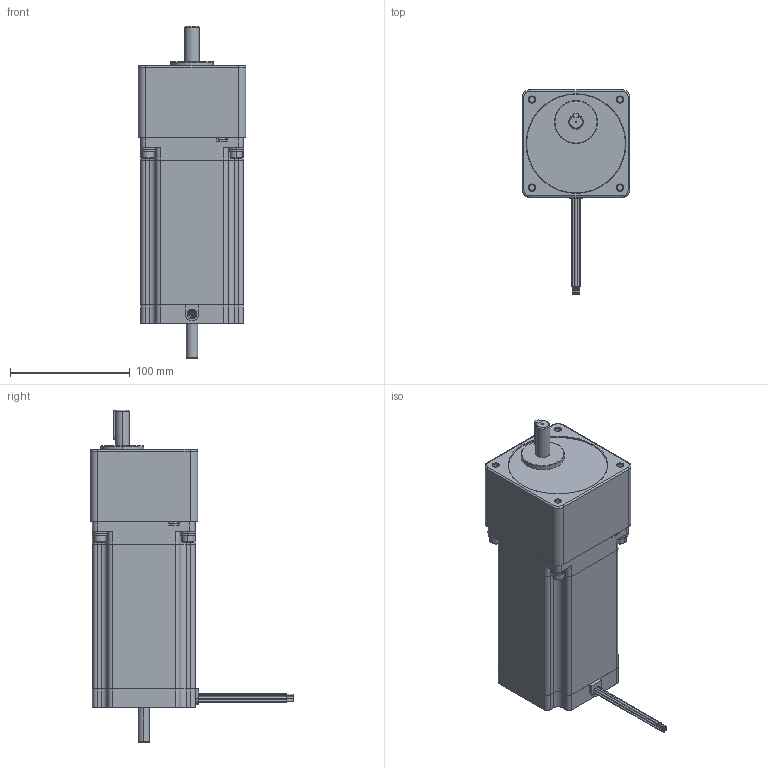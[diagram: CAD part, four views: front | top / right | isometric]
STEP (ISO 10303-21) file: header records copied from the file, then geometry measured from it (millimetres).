
FILE_DESCRIPTION (( 'STEP AP214' ), '1' );
FILE_NAME ('34YSG308D-LW8-R50.STEP', '2010-06-18T16:49:40', ( 'Tim Raines' ), ( 'Anaheim Automation' ), 'SwSTEP 2.0', 'SolidWorks 2010', '' );
FILE_SCHEMA (( 'AUTOMOTIVE_DESIGN' ));
Length unit declared in the file: millimetre
Products named in the file (6): Flat Washer Narrow_AM_B18.22M - Plain washer, 6 mm, narrow; Lock Washer Spring Regular_AI_Regular LW 0.25; Socket Head Cap Screw_AM_B18.3.1M - 6 x 1.0 x 20 Hex SHCS -- 20NHX; 34SG Series_34SG2; 34YSG Motor_34YSG308D-LW8; 34YSG308D-LW8-R50
Assembly tree (14 placements, depth 2):
  34YSG308D-LW8-R50
    Flat Washer Narrow_AM_B18.22M - Plain washer, 6 mm, narrow  x4
    Socket Head Cap Screw_AM_B18.3.1M - 6 x 1.0 x 20 Hex SHCS -- 20NHX  x4
    Lock Washer Spring Regular_AI_Regular LW 0.25  x4
    34SG Series_34SG2
    34YSG Motor_34YSG308D-LW8
Bounding box: 89.92 x 170.43 x 277.4 mm (x, y, z)
Volume: 1523684.4 mm3; surface area: 122317.8 mm2
Topology: 14 solids, 14 shells, 587 faces, 1391 edges, 862 vertices
Faces by surface type: plane 272, cylinder 194, cone 101, torus 20
Entity records: 18905 total; most frequent: CARTESIAN_POINT 2631, DIRECTION 2475, ORIENTED_EDGE 2262, EDGE_CURVE 1131, AXIS2_PLACEMENT_3D 919, VERTEX_POINT 715, VECTOR 637, LINE 637
